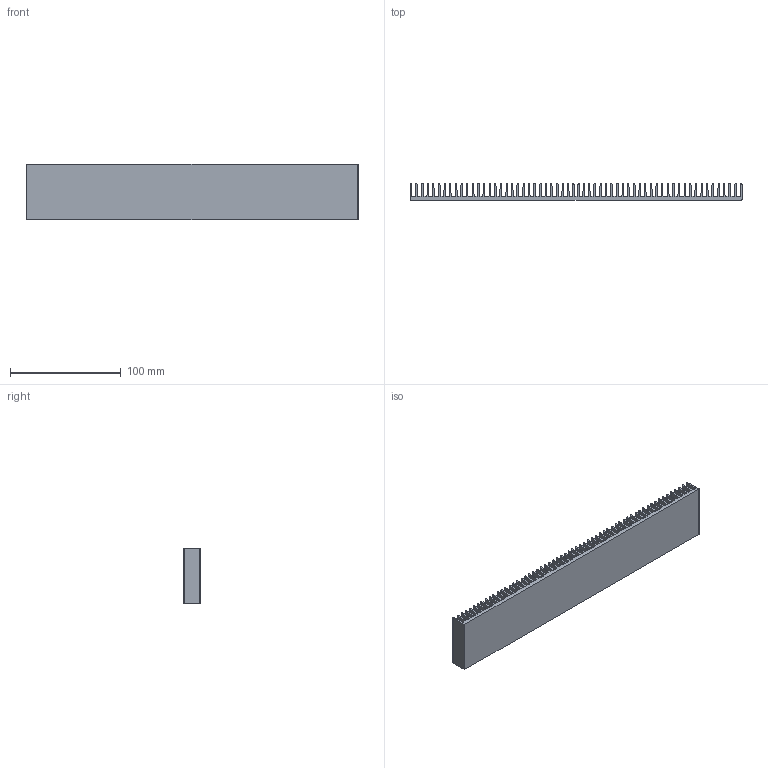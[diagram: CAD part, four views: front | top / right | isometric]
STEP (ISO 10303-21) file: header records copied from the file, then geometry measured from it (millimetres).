
FILE_DESCRIPTION (( 'STEP AP214' ), '1' );
FILE_NAME ('PR247.STEP', '2004-04-30T12:56:28', ( '' ), ( '' ), 'SwSTEP 2.0', 'SolidWorks 2002349', '' );
FILE_SCHEMA (( 'AUTOMOTIVE_DESIGN' ));
Length unit declared in the file: millimetre
Products named in the file (1): PR247
Bounding box: 300.04 x 15 x 50 mm (x, y, z)
Volume: 100100.8 mm3; surface area: 98999.3 mm2
Topology: 1 solids, 1 shells, 370 faces, 1104 edges, 736 vertices
Faces by surface type: cylinder 187, plane 183
Entity records: 12565 total; most frequent: DIRECTION 2220, CARTESIAN_POINT 2211, ORIENTED_EDGE 2208, EDGE_CURVE 1104, AXIS2_PLACEMENT_3D 745, VERTEX_POINT 736, VECTOR 730, LINE 730
